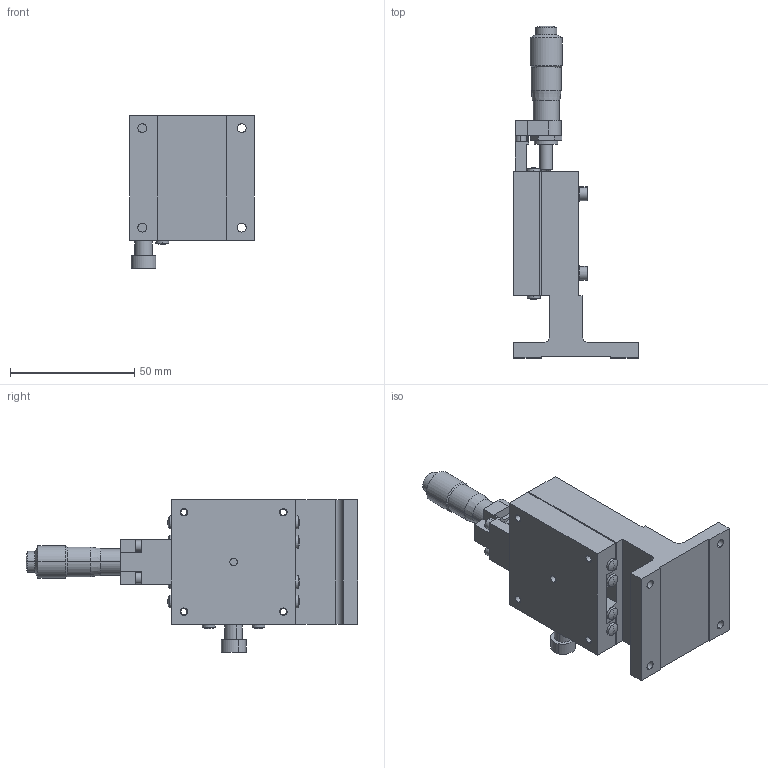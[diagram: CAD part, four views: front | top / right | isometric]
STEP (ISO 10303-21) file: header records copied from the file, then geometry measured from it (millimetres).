
FILE_DESCRIPTION (( 'STEP AP214' ), '1' );
FILE_NAME ('LZ‐5041‐C1.STEP', '2007-08-30T10:16:01', ( '' ), ( '' ), 'SwSTEP 2.0', 'SolidWorks 2006303', '' );
FILE_SCHEMA (( 'AUTOMOTIVE_DESIGN' ));
Length unit declared in the file: millimetre
Products named in the file (3): LZ‐5041‐C1; LZ50C100―1_ﾃﾞﾌｫﾙﾄ; LZ50C100―2_ﾃﾞﾌｫﾙﾄ
Assembly tree (2 placements, depth 2):
  LZ‐5041‐C1
    LZ50C100―2_ﾃﾞﾌｫﾙﾄ
    LZ50C100―1_ﾃﾞﾌｫﾙﾄ
Bounding box: 50 x 133.5 x 61.3 mm (x, y, z)
Volume: 93697.6 mm3; surface area: 35164 mm2
Topology: 3 solids, 9 shells, 324 faces, 763 edges, 492 vertices
Faces by surface type: cylinder 145, plane 129, cone 26, sphere 22, torus 2
Entity records: 9544 total; most frequent: DIRECTION 1795, CARTESIAN_POINT 1582, ORIENTED_EDGE 1522, EDGE_CURVE 761, AXIS2_PLACEMENT_3D 705, VERTEX_POINT 492, EDGE_LOOP 405, LINE 385
